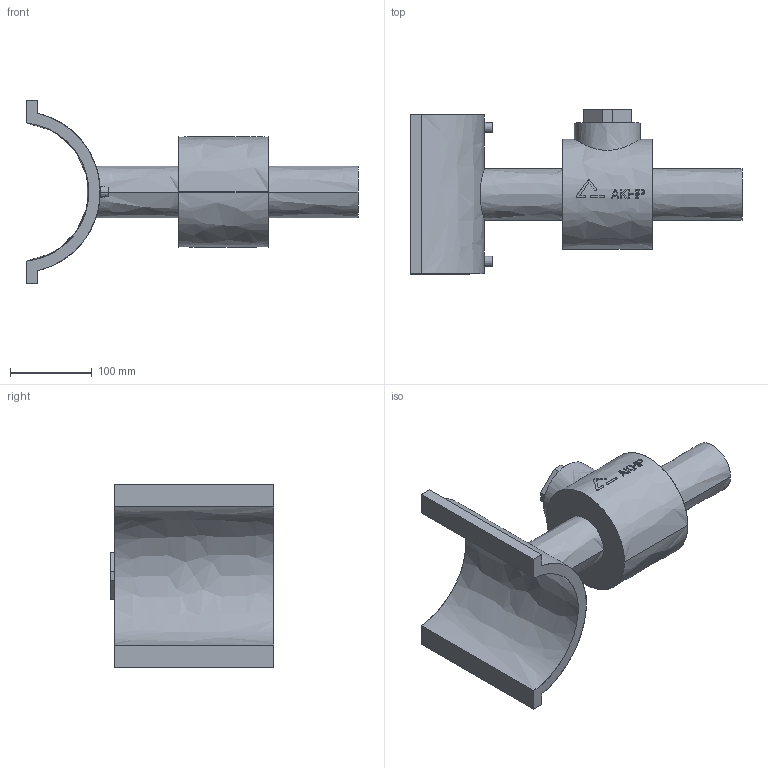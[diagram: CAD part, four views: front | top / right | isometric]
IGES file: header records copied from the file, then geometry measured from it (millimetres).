
Start section:  PTC IGES file: akhp_d160_d63.igs
Global section: file name: akhp_d160_d63.igs; native system: Pro/ENGINEER by Parametric Technology Corporation; preprocessor: 2006140; author: muellerc; organization: Unknown; date: 20060811.094202; units: millimetre
Bounding box: 407 x 201 x 225 mm (x, y, z)
Surface area: 254156 mm2 (no closed solid volume)
Topology: 0 solids, 0 shells, 123 faces, 674 edges, 680 vertices
Faces by surface type: bspline 123
